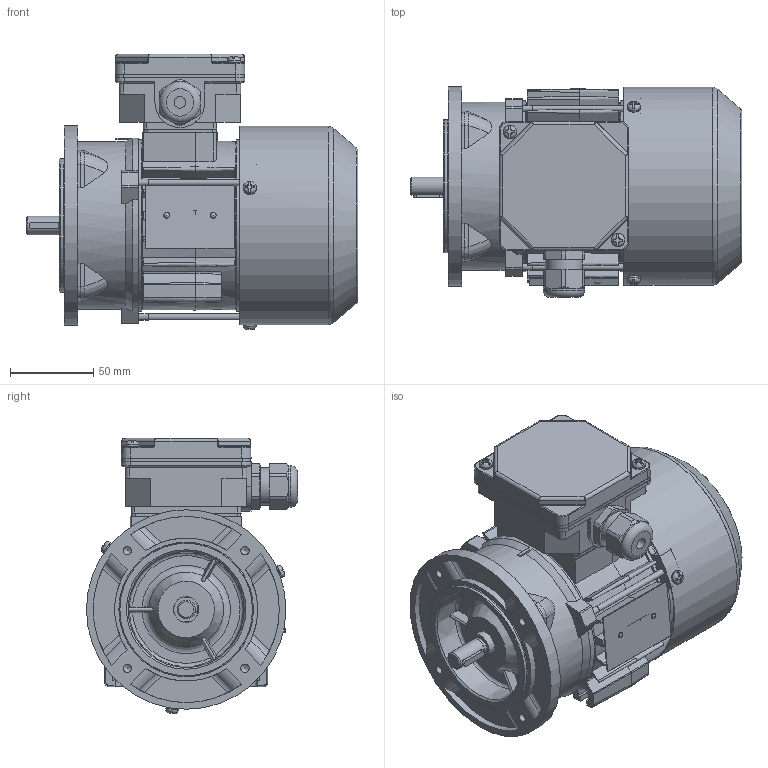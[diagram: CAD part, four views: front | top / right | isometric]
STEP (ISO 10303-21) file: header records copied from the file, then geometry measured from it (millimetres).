
FILE_DESCRIPTION(/* description */ ('Unknown'),/* implementation_level */ '2;1');
FILE_NAME(/* name */ '2SIEK63-4A1',/* time_stamp */ '2021-04-12T11:43:19+02:00',/* author */ ('Unknown'),/* organization */ ('Unknown'),/* preprocessor_version */ 'ST-DEVELOPER v16.7',/* originating_system */ 'Solid Edge',/* authorisation */ 'Unknown');
FILE_SCHEMA (('AUTOMOTIVE_DESIGN {1 0 10303 214 3 1 1}'));
Length unit declared in the file: millimetre
Products named in the file (1): 2SIEK63-4A1
Bounding box: 199.49 x 127 x 165.7 mm (x, y, z)
Volume: 497796.5 mm3; surface area: 311789 mm2
Topology: 2 solids, 2 shells, 1814 faces, 5109 edges, 3329 vertices
Faces by surface type: plane 907, cylinder 529, torus 127, bspline 116, cone 114, sphere 21
Full cylindrical faces by diameter (mm): 2.4 x2, 3.3 x3, 3.7 x7, 4 x5, 4.5 x3, 4.8 x2, 5 x6, 7 x4, 8 x6, 10.599 x1, 10.999 x1, 12.899 x1, 13.099 x1, 14.998 x2, 15.4 x2, 18.998 x2, 19.498 x1, 19.698 x1, 19.998 x1, 20.098 x1, 21.518 x4, 22.3 x1, 25 x1, 28 x2, 28.48 x4, 31 x2, 35 x3, 71.993 x1, 80 x1, 96 x1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
Entity records: 73625 total; most frequent: CARTESIAN_POINT 16196, ORIENTED_EDGE 9570, DIRECTION 8854, EDGE_CURVE 4785, AXIS2_PLACEMENT_3D 3262, VERTEX_POINT 3207, LINE 2330, VECTOR 2330
